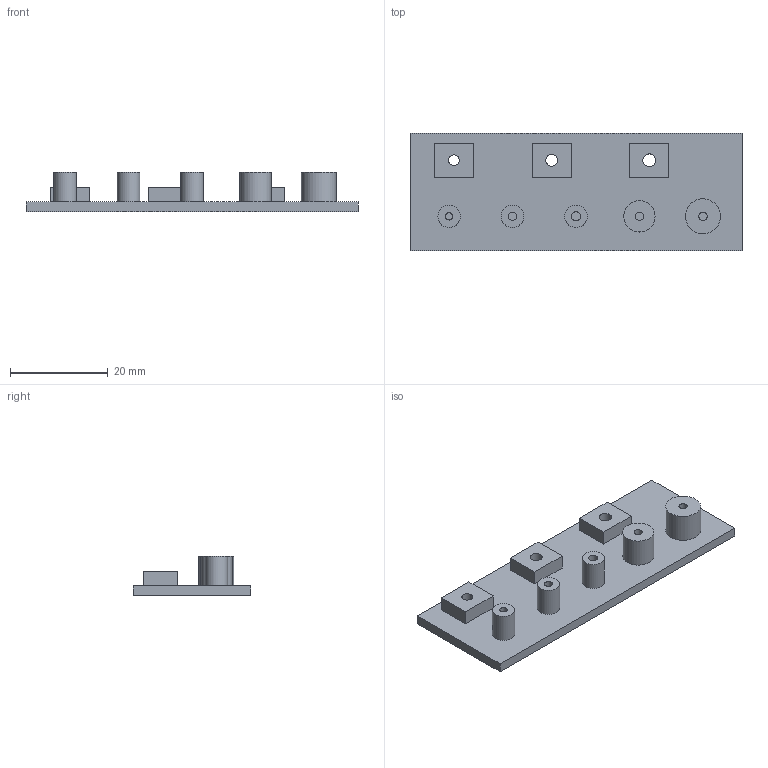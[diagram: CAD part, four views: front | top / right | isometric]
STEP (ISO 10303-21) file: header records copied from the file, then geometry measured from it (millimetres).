
FILE_DESCRIPTION(('Open CASCADE Model'),'2;1');
FILE_NAME('Open CASCADE Shape Model','2026-09-16T15:01:01',('Author'),( 'Open CASCADE'),'Open CASCADE STEP processor 7.7','Open CASCADE 7.7' ,'Unknown');
FILE_SCHEMA(('AUTOMOTIVE_DESIGN { 1 0 10303 214 1 1 1 1 }'));
Length unit declared in the file: millimetre
Products named in the file (1): COMPOUND
Bounding box: 68 x 24 x 8 mm (x, y, z)
Volume: 4381.5 mm3; surface area: 4632.5 mm2
Topology: 1 solids, 1 shells, 44 faces, 87 edges, 58 vertices
Faces by surface type: plane 31, cylinder 13
Full cylindrical faces by diameter (mm): 1.5 x1, 1.7 x3, 1.9 x1, 2.2 x1, 2.4 x1, 2.6 x1, 4.6 x3, 6.4 x1, 7.2 x1
Entity records: 2290 total; most frequent: DIRECTION 377, CARTESIAN_POINT 364, LINE 209, VECTOR 209, ORIENTED_EDGE 174, PCURVE 174, DEFINITIONAL_REPRESENTATION 174, EDGE_CURVE 87
